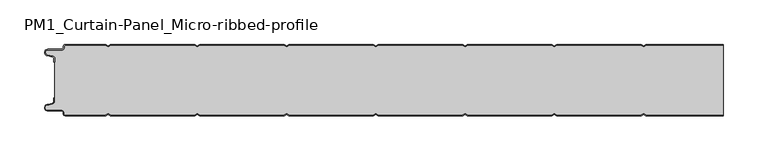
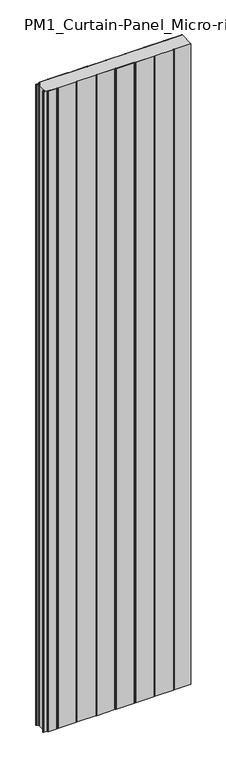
"""IFC4 building model written with IfcOpenShell, lengths in millimetres: plate geometry, PM1_Curtain-Panel_Micro-ribbed-profile : ACH_PM1_Acoustic-Sectioning-Panel_80M."""

from ifc_helpers import new_model, si_unit, point, frame_2d, origin, origin_with_axes, place, context, project, spatial, polyline, circle_curve, trimmed, segment, composite_curve, outline, extrude, source, transform, mapped, element, save


def pm1_curtain_panel_micro_ribbed_profile_9ff300b7(model_context):
    return source(origin(), model_context, "Body", "SweptSolid", [
        extrude(outline(composite_curve([segment(trimmed(circle_curve(frame_2d((-377.0, -15.878557)), 2.0), [point((-375.0, -15.878557))], [point((-376.5500978, -13.9298169))], True, "CARTESIAN"), True, "CONTINUOUS"), segment(polyline([(-376.5500978, -13.9298169), (-382.7098239, -12.507732)]), True, "CONTINUOUS"), segment(trimmed(circle_curve(frame_2d((-381.9, -9.0)), 3.6), [point((-382.7098239, -12.507732))], [point((-381.9, -5.4))], False, "CARTESIAN"), True, "CONTINUOUS"), segment(polyline([(-381.9, -5.4), (-366.4, -5.4)]), True, "CONTINUOUS"), segment(trimmed(circle_curve(frame_2d((-366.4, -3.4)), 2.0), [point((-366.4, -5.4))], [point((-364.4, -3.4))], True, "CARTESIAN"), True, "CONTINUOUS"), segment(polyline([(-364.4, -3.4), (-364.4, -2.0)]), True, "CONTINUOUS"), segment(trimmed(circle_curve(frame_2d((-362.4, -2.0)), 2.0), [point((-364.4, -2.0))], [point((-362.4, 0.0))], False, "CARTESIAN"), True, "CONTINUOUS"), segment(polyline([(-362.4, 0.0), (-317.0999995, 0.0), (-314.4, -1.5588455), (-311.7000005, 0.0), (-217.0999995, 0.0), (-214.4, -1.5588455), (-211.7000005, 0.0), (-117.0999995, 0.0), (-114.4, -1.5588455), (-111.7000005, 0.0), (-17.0999995, 0.0), (-14.4, -1.5588455), (-11.7000005, 0.0), (82.9000005, 0.0), (85.6, -1.5588455), (88.2999995, 0.0), (182.9000005, 0.0), (185.6, -1.5588455), (188.2999995, 0.0), (282.9000005, 0.0), (285.6, -1.5588455), (288.2999995, 0.0), (375.0, 0.0), (375.0, -0.8), (288.5143588, -0.8), (285.6, -2.482606), (282.6856412, -0.8), (188.5143588, -0.8), (185.6, -2.482606), (182.6856412, -0.8), (88.5143588, -0.8), (85.6, -2.482606), (82.6856412, -0.8), (-11.4856412, -0.8), (-14.4, -2.482606), (-17.3143588, -0.8), (-111.4856412, -0.8), (-114.4, -2.482606), (-117.3143588, -0.8), (-211.4856412, -0.8), (-214.4, -2.482606), (-217.3143588, -0.8), (-311.4856412, -0.8), (-314.4, -2.482606), (-317.3143588, -0.8), (-362.4, -0.8)]), True, "CONTINUOUS"), segment(trimmed(circle_curve(frame_2d((-362.4, -2.0)), 1.2), [point((-362.4, -0.8))], [point((-363.6, -2.0))], True, "CARTESIAN"), True, "CONTINUOUS"), segment(polyline([(-363.6, -2.0), (-363.6, -3.4)]), True, "CONTINUOUS"), segment(trimmed(circle_curve(frame_2d((-366.4, -3.4)), 2.8), [point((-363.6, -3.4))], [point((-366.4, -6.2))], False, "CARTESIAN"), True, "CONTINUOUS"), segment(polyline([(-366.4, -6.2), (-381.9, -6.2)]), True, "CONTINUOUS"), segment(trimmed(circle_curve(frame_2d((-381.9, -9.0)), 2.8), [point((-381.9, -6.2))], [point((-382.529863, -11.7282362))], True, "CARTESIAN"), True, "CONTINUOUS"), segment(polyline([(-382.529863, -11.7282362), (-376.370137, -13.150321)]), True, "CONTINUOUS"), segment(trimmed(circle_curve(frame_2d((-377.0, -15.878557)), 2.8), [point((-376.370137, -13.150321))], [point((-374.2, -15.878557))], False, "CARTESIAN"), True, "CONTINUOUS"), segment(polyline([(-374.2, -15.878557), (-374.2, -20.0), (-375.0, -20.0), (-375.0, -15.878557)]), True, "CONTINUOUS")], self_intersect=False)), origin_with_axes(), (0.0, 0.0, 1.0), 3500.0),
        extrude(outline(composite_curve([segment(polyline([(-374.2, -64.1214426), (-374.2, -15.8785573)]), True, "CONTINUOUS"), segment(trimmed(circle_curve(frame_2d((-377.0, -15.8785573)), 2.8), [point((-374.2, -15.8785573))], [point((-376.370137, -13.1503212))], True, "CARTESIAN"), True, "CONTINUOUS"), segment(polyline([(-376.370137, -13.1503212), (-382.5298631, -11.7282362)]), True, "CONTINUOUS"), segment(trimmed(circle_curve(frame_2d((-381.9, -9.0)), 2.8), [point((-382.5298631, -11.7282362))], [point((-381.9, -6.2))], False, "CARTESIAN"), True, "CONTINUOUS"), segment(polyline([(-381.9, -6.2), (-366.4000001, -6.2)]), True, "CONTINUOUS"), segment(trimmed(circle_curve(frame_2d((-366.4000001, -3.4)), 2.8), [point((-366.4000001, -6.2))], [point((-363.6000001, -3.4))], True, "CARTESIAN"), True, "CONTINUOUS"), segment(polyline([(-363.6000001, -3.4), (-363.6000001, -2.0)]), True, "CONTINUOUS"), segment(trimmed(circle_curve(frame_2d((-362.4000001, -2.0)), 1.2), [point((-363.6000001, -2.0))], [point((-362.4000001, -0.8))], False, "CARTESIAN"), True, "CONTINUOUS"), segment(polyline([(-362.4000001, -0.8), (-317.3143589, -0.8), (-314.4000001, -2.482606), (-311.4856412, -0.8), (-217.3143589, -0.8), (-214.4000001, -2.482606), (-211.4856412, -0.8), (-117.3143589, -0.8), (-114.4000001, -2.482606), (-111.4856412, -0.8), (-17.3143589, -0.8), (-14.4000001, -2.482606), (-11.4856412, -0.8), (82.6856411, -0.8), (85.5999999, -2.482606), (88.5143588, -0.8), (182.6856411, -0.8), (185.5999999, -2.482606), (188.5143588, -0.8), (282.6856411, -0.8), (285.5999999, -2.482606), (288.5143588, -0.8), (375.0, -0.8), (375.0, -79.2), (288.5143588, -79.2), (285.5999999, -77.517394), (282.6856411, -79.2), (188.5143588, -79.2), (185.5999999, -77.517394), (182.6856411, -79.2), (88.5143588, -79.2), (85.5999999, -77.517394), (82.6856411, -79.2), (-11.4856412, -79.2), (-14.4000001, -77.517394), (-17.3143589, -79.2), (-111.4856412, -79.2), (-114.4000001, -77.517394), (-117.3143589, -79.2), (-211.4856412, -79.2), (-214.4000001, -77.517394), (-217.3143589, -79.2), (-311.4856412, -79.2), (-314.4000001, -77.517394), (-317.3143589, -79.2), (-362.4000001, -79.2)]), True, "CONTINUOUS"), segment(trimmed(circle_curve(frame_2d((-362.4000001, -78.0)), 1.2), [point((-362.4000001, -79.2))], [point((-363.6000001, -78.0))], False, "CARTESIAN"), True, "CONTINUOUS"), segment(polyline([(-363.6000001, -78.0), (-363.6000001, -76.6)]), True, "CONTINUOUS"), segment(trimmed(circle_curve(frame_2d((-366.4000001, -76.6)), 2.8), [point((-363.6000001, -76.6))], [point((-366.4000001, -73.8))], True, "CARTESIAN"), True, "CONTINUOUS"), segment(polyline([(-366.4000001, -73.8), (-381.9, -73.8)]), True, "CONTINUOUS"), segment(trimmed(circle_curve(frame_2d((-381.9, -71.0)), 2.8), [point((-381.9, -73.8))], [point((-382.5298631, -68.2717638))], False, "CARTESIAN"), True, "CONTINUOUS"), segment(polyline([(-382.5298631, -68.2717638), (-376.370137, -66.8496788)]), True, "CONTINUOUS"), segment(trimmed(circle_curve(frame_2d((-377.0, -64.1214426)), 2.8), [point((-376.370137, -66.8496788))], [point((-374.2, -64.1214426))], True, "CARTESIAN"), True, "CONTINUOUS")], self_intersect=False)), origin_with_axes(), (0.0, 0.0, 1.0), 3500.0),
        extrude(outline(composite_curve([segment(polyline([(-375.0, -64.121443), (-375.0, -60.0), (-374.2, -60.0), (-374.2, -64.121443)]), True, "CONTINUOUS"), segment(trimmed(circle_curve(frame_2d((-377.0, -64.121443)), 2.8), [point((-374.2, -64.121443))], [point((-376.370137, -66.8496792))], False, "CARTESIAN"), True, "CONTINUOUS"), segment(polyline([(-376.370137, -66.8496792), (-382.529863, -68.271764)]), True, "CONTINUOUS"), segment(trimmed(circle_curve(frame_2d((-381.9, -71.0)), 2.8), [point((-382.529863, -68.271764))], [point((-381.9, -73.8))], True, "CARTESIAN"), True, "CONTINUOUS"), segment(polyline([(-381.9, -73.8), (-366.4, -73.8)]), True, "CONTINUOUS"), segment(trimmed(circle_curve(frame_2d((-366.4, -76.6)), 2.8), [point((-366.4, -73.8))], [point((-363.6, -76.6))], False, "CARTESIAN"), True, "CONTINUOUS"), segment(polyline([(-363.6, -76.6), (-363.6, -78.0)]), True, "CONTINUOUS"), segment(trimmed(circle_curve(frame_2d((-362.4, -78.0)), 1.2), [point((-363.6, -78.0))], [point((-362.4, -79.2))], True, "CARTESIAN"), True, "CONTINUOUS"), segment(polyline([(-362.4, -79.2), (-317.3143588, -79.2), (-314.4, -77.517394), (-311.4856412, -79.2), (-217.3143588, -79.2), (-214.4, -77.517394), (-211.4856412, -79.2), (-117.3143588, -79.2), (-114.4, -77.517394), (-111.4856412, -79.2), (-17.3143588, -79.2), (-14.4, -77.517394), (-11.4856412, -79.2), (82.6856412, -79.2), (85.6, -77.517394), (88.5143588, -79.2), (182.6856412, -79.2), (185.6, -77.517394), (188.5143588, -79.2), (282.6856412, -79.2), (285.6, -77.517394), (288.5143588, -79.2), (375.0, -79.2), (375.0, -80.0), (288.2999995, -80.0), (285.6, -78.4411545), (282.9000005, -80.0), (188.2999995, -80.0), (185.6, -78.4411545), (182.9000005, -80.0), (88.2999995, -80.0), (85.6, -78.4411545), (82.9000005, -80.0), (-11.7000005, -80.0), (-14.4, -78.4411545), (-17.0999995, -80.0), (-111.7000005, -80.0), (-114.4, -78.4411545), (-117.0999995, -80.0), (-211.7000005, -80.0), (-214.4, -78.4411545), (-217.0999995, -80.0), (-311.7000005, -80.0), (-314.4, -78.4411545), (-317.0999995, -80.0), (-362.4, -80.0)]), True, "CONTINUOUS"), segment(trimmed(circle_curve(frame_2d((-362.4, -78.0)), 2.0), [point((-362.4, -80.0))], [point((-364.4, -78.0))], False, "CARTESIAN"), True, "CONTINUOUS"), segment(polyline([(-364.4, -78.0), (-364.4, -76.6)]), True, "CONTINUOUS"), segment(trimmed(circle_curve(frame_2d((-366.4, -76.6)), 2.0), [point((-364.4, -76.6))], [point((-366.4, -74.6))], True, "CARTESIAN"), True, "CONTINUOUS"), segment(polyline([(-366.4, -74.6), (-381.9, -74.6)]), True, "CONTINUOUS"), segment(trimmed(circle_curve(frame_2d((-381.9, -71.0)), 3.6), [point((-381.9, -74.6))], [point((-382.7098239, -67.4922678))], False, "CARTESIAN"), True, "CONTINUOUS"), segment(polyline([(-382.7098239, -67.4922678), (-376.5500979, -66.070183)]), True, "CONTINUOUS"), segment(trimmed(circle_curve(frame_2d((-377.0, -64.121443)), 2.0), [point((-376.5500979, -66.070183))], [point((-375.0, -64.121443))], True, "CARTESIAN"), True, "CONTINUOUS")], self_intersect=False)), origin_with_axes(), (0.0, 0.0, 1.0), 3500.0),
    ])


if __name__ == "__main__":
    model = new_model("IFC4")
    model_context = context("Model", 3, world=origin())
    ifc_project = project(units=[si_unit("LENGTHUNIT", "METRE", prefix="MILLI")], contexts=[model_context])
    site = spatial("IfcSite", under=ifc_project)
    building = spatial("IfcBuilding", under=site)
    placement = place(None, origin())
    pm1_curtain_panel_micro_ribbed_profile_shape = pm1_curtain_panel_micro_ribbed_profile_9ff300b7(model_context)
    element("IfcPlate", 1, ObjectType="PM1_Curtain-Panel_Micro-ribbed-profile : ACH_PM1_Acoustic-Sectioning-Panel_80M", at=placement, inside=building, context=model_context, shape_type="MappedRepresentation", body=[
        mapped(pm1_curtain_panel_micro_ribbed_profile_shape, transform((0.0, 0.0, 0.0), x_axis=(1.0, 0.0, 0.0), y_axis=(0.0, 1.0, 0.0), z_axis=(0.0, 0.0, 1.0))),
    ])
    save(model, "model.ifc")
